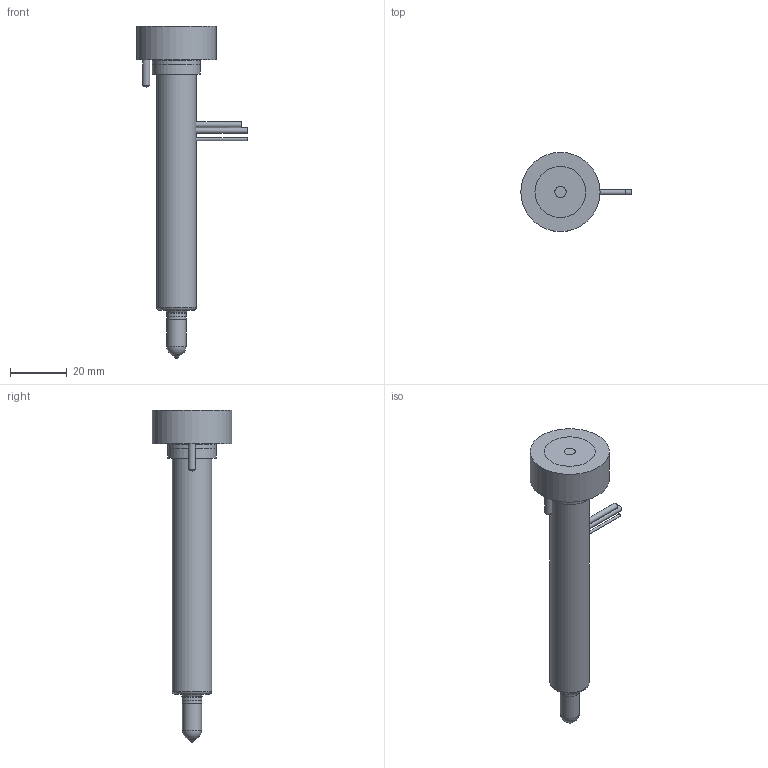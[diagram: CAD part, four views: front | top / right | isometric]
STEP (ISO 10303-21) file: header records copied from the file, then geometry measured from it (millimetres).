
FILE_DESCRIPTION(/* description */ (''),/* implementation_level */ '2;1');
FILE_NAME(/* name */ 'MJTT09095-10_200C_a',/* time_stamp */ '2008-11-14T17:47:30+13:00',/* author */ (''),/* organization */ (''),/* preprocessor_version */ 'ST-DEVELOPER v9',/* originating_system */ 'UGS - NX 4.0',/* authorisation */ '');
FILE_SCHEMA (('CONFIG_CONTROL_DESIGN'));
Length unit declared in the file: millimetre
Products named in the file (1): Matt5FEBawt1
Bounding box: 39 x 28 x 117.38 mm (x, y, z)
Volume: 38148.7 mm3; surface area: 12395 mm2
Topology: 2 solids, 2 shells, 90 faces, 207 edges, 133 vertices
Faces by surface type: plane 36, cylinder 33, cone 11, torus 9, sphere 1
Full cylindrical faces by diameter (mm): 0.7 x1, 1 x1, 2 x2, 2.5 x2, 3.6 x1, 4 x1, 5.2 x1, 6.61 x1, 6.8 x1, 7.01 x2, 8 x1, 13 x1, 13.002 x1, 14 x1, 17 x2, 28 x1
Entity records: 2560 total; most frequent: CARTESIAN_POINT 637, DIRECTION 402, ORIENTED_EDGE 308, AXIS2_PLACEMENT_3D 176, EDGE_CURVE 154, EDGE_LOOP 142, VERTEX_POINT 121, ADVANCED_FACE 90
